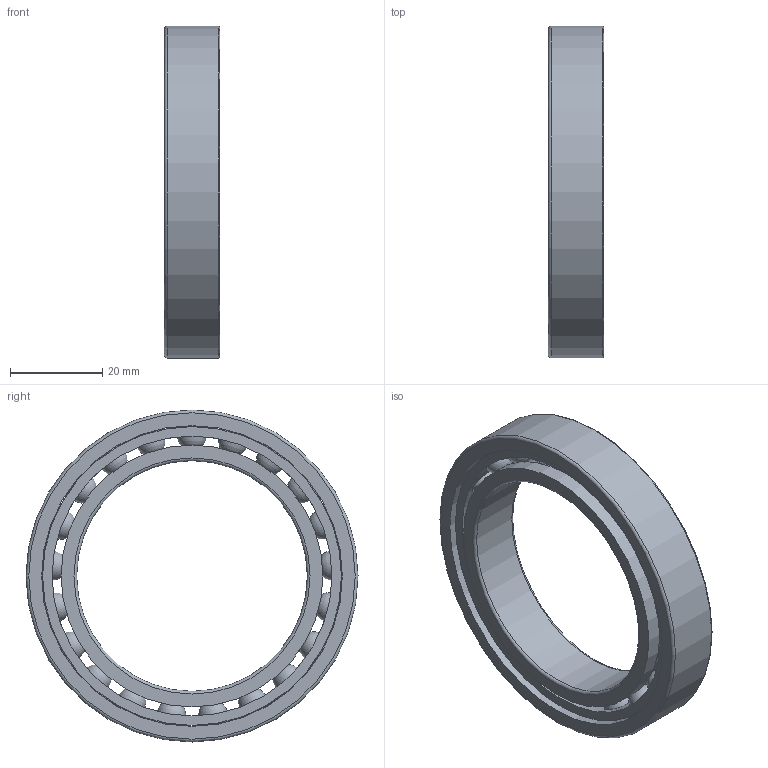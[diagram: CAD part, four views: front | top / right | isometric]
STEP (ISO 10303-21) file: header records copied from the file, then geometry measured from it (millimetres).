
FILE_DESCRIPTION(/* description */ (''),/* implementation_level */ '2;1');
FILE_NAME(/* name */ 'SM_61910_TA.step',/* time_stamp */ '2013-03-11T11:35:36+01:00',/* author */ ('Marian'),/* organization */ ('GMN'),/* preprocessor_version */ 'ST-DEVELOPER v11',/* originating_system */ 'SIEMENS UGS NX 6.0',/* authorisation */ '');
FILE_SCHEMA (('CONFIG_CONTROL_DESIGN'));
Length unit declared in the file: millimetre
Products named in the file (1): SM_61910_TA
Bounding box: 12 x 72 x 72 mm (x, y, z)
Volume: 18290 mm3; surface area: 18109.5 mm2
Topology: 24 solids, 24 shells, 62 faces, 160 edges, 104 vertices
Faces by surface type: cylinder 28, sphere 21, torus 6, plane 6, cone 1
Full cylindrical faces by diameter (mm): 6.55 x21, 50 x1, 56.8 x2, 60.69 x1, 64.8 x1, 65.2 x1, 72 x1
Entity records: 3732 total; most frequent: CARTESIAN_POINT 2602, DIRECTION 166, FACE_BOUND 145, EDGE_LOOP 124, ORIENTED_EDGE 124, VERTEX_POINT 83, AXIS2_PLACEMENT_3D 83, EDGE_CURVE 62
